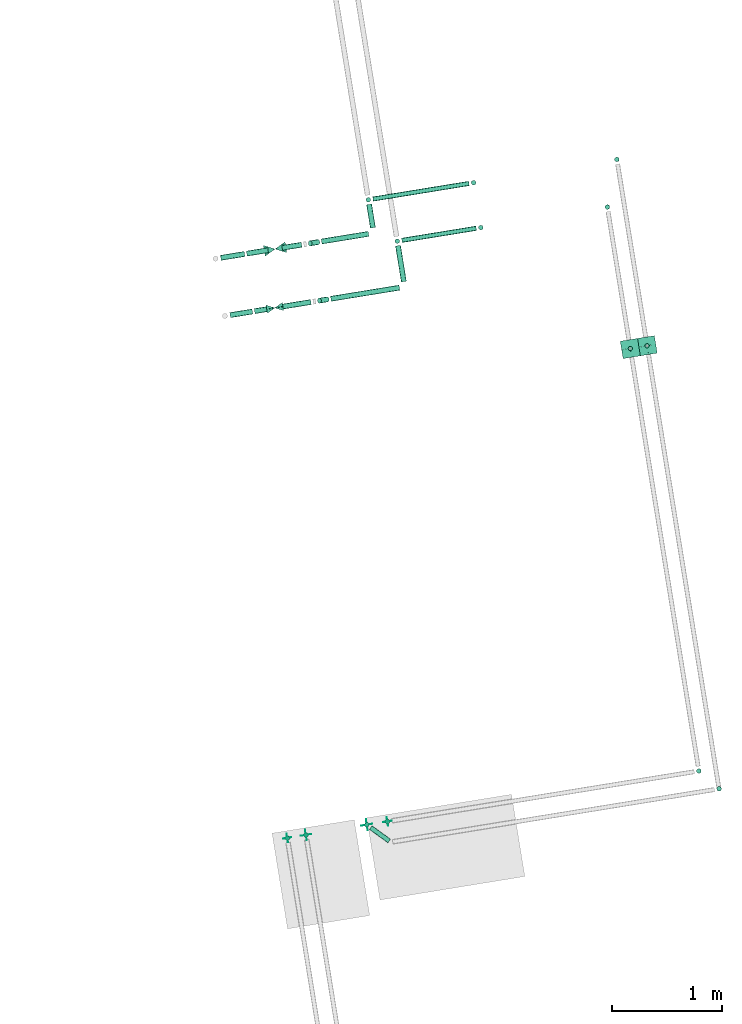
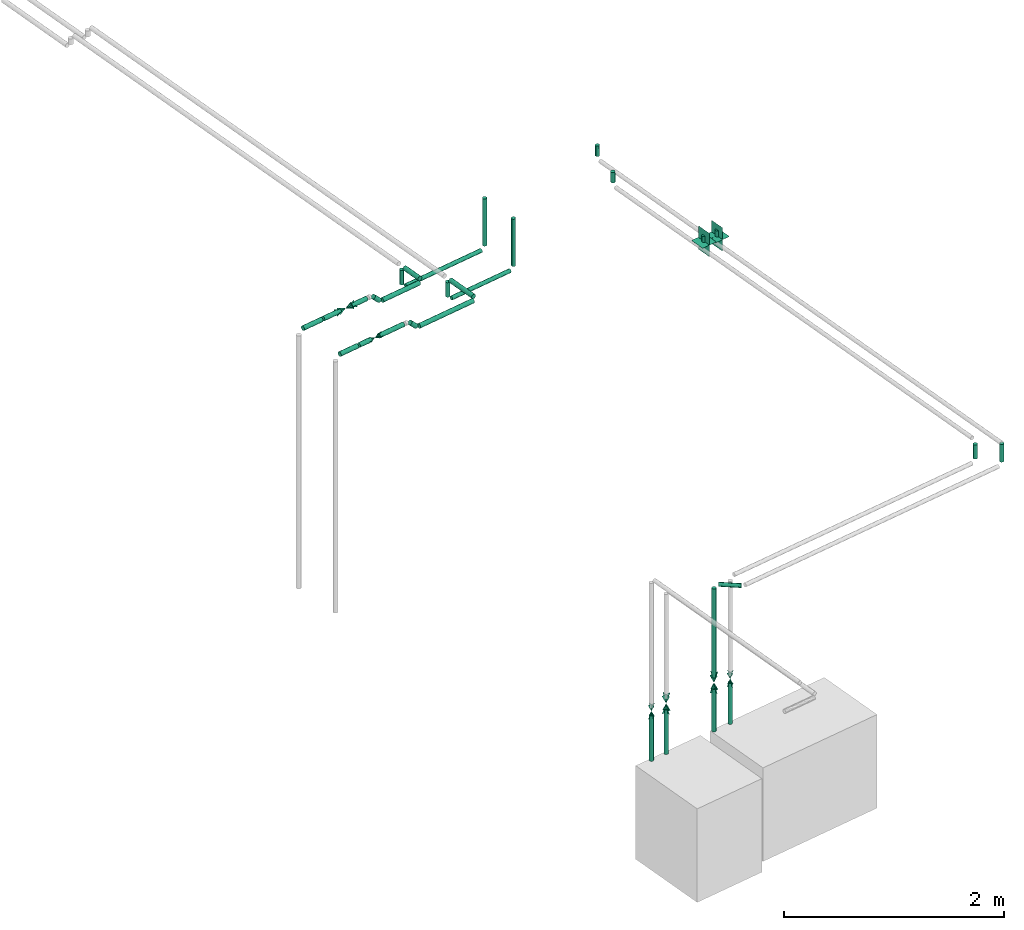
# One storey, part 3 of 10: 28 flow segments, 8 flow controllers.
"""IFC2X3 building model written with IfcOpenShell, lengths in millimetres."""

from ifc_helpers import new_model, entity, si_unit, converted_unit, derived_unit, direction, frame, frame_2d, origin, origin_with_axes, origin_2d_with_axis, place, context, subcontext, project, spatial, polyline, circle, outline, extrude, source, transform, mapped, material, material_list, type_object, element, save


model = new_model("IFC2X3")

# Units and contexts
plan_context = context("Plan", 3, precision=1e-05, world=origin_with_axes())
model_context = context("Model", 3, precision=0.01, world=origin(), true_north=direction((6.12323399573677e-17, 1.0)))
body_context = subcontext(model_context, "Body", "Model", "MODEL_VIEW")
ifc_project = project(units=[converted_unit("PLANEANGLEUNIT", "DEGREE", entity("IfcPositiveLengthMeasure", 0.0174532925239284), si_unit("PLANEANGLEUNIT", "RADIAN"), dimensions=[0, 0, 0, 0, 0, 0, 0]), si_unit("AREAUNIT", "SQUARE_METRE"), si_unit("LENGTHUNIT", "METRE", prefix="MILLI"), si_unit("MASSUNIT", "GRAM", prefix="KILO"), si_unit("POWERUNIT", "WATT"), si_unit("PRESSUREUNIT", "PASCAL", prefix="KILO"), si_unit("FORCEUNIT", "NEWTON", prefix="KILO"), si_unit("ELECTRICVOLTAGEUNIT", "VOLT"), si_unit("ELECTRICCURRENTUNIT", "AMPERE"), si_unit("THERMODYNAMICTEMPERATUREUNIT", "DEGREE_CELSIUS"), si_unit("TIMEUNIT", "SECOND"), si_unit("VOLUMEUNIT", "CUBIC_METRE"), derived_unit("LINEARVELOCITYUNIT", [(si_unit("LENGTHUNIT", "METRE"), 1), (si_unit("TIMEUNIT", "SECOND"), -1)]), derived_unit("VOLUMETRICFLOWRATEUNIT", [(si_unit("VOLUMEUNIT", "CUBIC_METRE"), 1), (si_unit("TIMEUNIT", "SECOND"), -1)]), derived_unit("THERMALTRANSMITTANCEUNIT", [(si_unit("POWERUNIT", "WATT"), 1), (si_unit("THERMODYNAMICTEMPERATUREUNIT", "KELVIN"), -1), (si_unit("AREAUNIT", "SQUARE_METRE"), -1)]), derived_unit("SOUNDPRESSUREUNIT", [(si_unit("PRESSUREUNIT", "PASCAL"), 1)])], contexts=[model_context, plan_context])

# Site, building, storey
site_placement = place(None, frame((-0.00071070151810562, 0.00438415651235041, 0.0), z_axis=(0.0, 0.0, 1.0), x_axis=(-0.160236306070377, 0.987078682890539, 0.0)))
site = spatial("IfcSite", under=ifc_project, at=site_placement, Name="Default", CompositionType="ELEMENT")
building_placement = place(site_placement, origin_with_axes())
building = spatial("IfcBuilding", under=site, at=building_placement, CompositionType="ELEMENT")
storey_placement = place(building_placement, frame((0.0, 0.0, 58999.9999999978), z_axis=(0.0, 0.0, 1.0), x_axis=(1.0, 0.0, 0.0)))
storey = spatial("IfcBuildingStorey", under=building, at=storey_placement, Name="Nivå F", CompositionType="ELEMENT", Elevation=58999.9999999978)

# Flow controllers
ifc_material_1 = material(Name="2d_hide")
valve_type_1 = type_object("IfcValveType", Name="REGULERINGSVENTIL - MANUELL--SV01T:REGULERINGSVENTIL - MANUELL-40-SV001T", PredefinedType="NOTDEFINED", material=ifc_material_1)
shared_shape_1 = source(origin(), body_context, "Body", "SweptSolid", [
    extrude(outline(polyline([(-52.1749194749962, -29.8142396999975), (59.6284793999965, -29.8142396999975), (-7.4535599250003, 59.628479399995), (-52.1749194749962, -29.8142396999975)])), frame((66.6666666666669, 0.0, -0.1), z_axis=(0.0, 0.0, 1.0), x_axis=(-0.894427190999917, -0.447213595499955, 0.0)), (0.0, 0.0, 1.0), 0.2),
    extrude(outline(polyline([(-50.0, -33.3333333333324), (50.0, -33.3333333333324), (0.0, 66.6666666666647), (-50.0, -33.3333333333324)])), frame((-66.6666666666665, 0.0, -0.1), z_axis=(0.0, 0.0, 1.0), x_axis=(0.0, -1.0, 0.0)), (0.0, 0.0, 1.0), 0.2),
    extrude(outline(polyline([(-52.1749194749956, -29.8142396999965), (59.6284793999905, -29.8142396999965), (-7.45355992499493, 59.628479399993), (-52.1749194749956, -29.8142396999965)])), frame((66.66666666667, -0.1, 0.0), z_axis=(0.0, 1.0, 0.0), x_axis=(-0.894427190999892, 0.0, 0.447213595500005)), (0.0, 0.0, 1.0), 0.2),
    extrude(outline(polyline([(-50.0, -33.3333333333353), (50.0, -33.3333333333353), (0.0, 66.6666666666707), (-50.0, -33.3333333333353)])), frame((-66.6666666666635, -0.1, 0.0), z_axis=(0.0, 1.0, 0.0), x_axis=(0.0, 0.0, 1.0)), (0.0, 0.0, 1.0), 0.2),
])
flow_controller_1_placement = place(storey_placement, frame((771916.919644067, -501871.96680969, 2880.0), z_axis=(0.0, 0.0, 1.0), x_axis=(0.0, 1.0, 0.0)))
element("IfcFlowController", 1, at=flow_controller_1_placement, inside=storey, type_object=valve_type_1, material=ifc_material_1, Name="REGULERINGSVENTIL - MANUELL--SV01T:REGULERINGSVENTIL - MANUELL-40-SV001T", ObjectType="REGULERINGSVENTIL - MANUELL--SV01T:REGULERINGSVENTIL - MANUELL-40-SV001T", context=body_context, shape_type="MappedRepresentation", body=[
    mapped(shared_shape_1, transform((0.0, 0.0, 0.0), scale=1.0)),
])
valve_type_2 = type_object("IfcValveType", Name="REGULERINGSVENTIL - MANUELL--SV01T:REGULERINGSVENTIL - MANUELL-32-SV001T", PredefinedType="NOTDEFINED", material=ifc_material_1)
for number, where, z_axis, x_axis in (
    (2, (766591.968589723, -501293.064801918, 1635.22115136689), (0.0, -1.0, 0.0), (0.0, 0.0, 1.0)),
    (3, (766594.059199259, -501856.794089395, 1615.50142748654), (-1.0, 0.0, 0.0), (0.0, 0.0, 1.0)),
):
    element("IfcFlowController", number, at=place(storey_placement, frame(where, z_axis=z_axis, x_axis=x_axis)), inside=storey, type_object=valve_type_2, material=ifc_material_1, Name="REGULERINGSVENTIL - MANUELL--SV01T:REGULERINGSVENTIL - MANUELL-32-SV001T", ObjectType="REGULERINGSVENTIL - MANUELL--SV01T:REGULERINGSVENTIL - MANUELL-32-SV001T", context=body_context, shape_type="MappedRepresentation", body=[
        mapped(shared_shape_1, transform((0.0, 0.0, 0.0), scale=1.0)),
    ])
ifc_material_2 = material(Name="<Unnamed>")
valve_type_3 = type_object("IfcValveType", Name="STENGEVENTIL - MANUELL-  1-SM01T:STENGEVENTIL - MANUELL-40-SM001T", PredefinedType="NOTDEFINED", material=ifc_material_2)
shared_shape_2 = source(origin(), body_context, "Body", "SweptSolid", [
    extrude(outline(polyline([(-39.1311896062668, -22.3606797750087), (44.7213595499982, -22.3606797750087), (-5.59016994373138, 44.7213595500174), (-39.1311896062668, -22.3606797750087)])), frame((50.0, -1.07349053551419, 0.0), z_axis=(0.0, 1.0, 0.0), x_axis=(-0.894427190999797, 0.0, 0.447213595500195)), (0.0, 0.0, 1.0), 2.13989335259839),
    extrude(outline(polyline([(-37.5000000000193, -25.0), (37.5000000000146, -25.0), (0.0, 50.0), (-37.5000000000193, -25.0)])), frame((-50.0, -1.07349053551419, 0.0), z_axis=(0.0, 1.0, 0.0), x_axis=(0.0, 0.0, 1.0)), (0.0, 0.0, 1.0), 2.13989335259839),
    extrude(outline(polyline([(-37.5000000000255, -25.0), (37.5000000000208, -25.0), (0.0, 50.0), (-37.5000000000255, -25.0)])), frame((50.0, 0.0, -1.0664028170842), z_axis=(0.0, 0.0, 1.0), x_axis=(0.0, 1.0, 0.0)), (0.0, 0.0, 1.0), 2.13989335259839),
    extrude(outline(polyline([(-39.1311896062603, -22.360679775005), (44.7213595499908, -22.360679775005), (-5.59016994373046, 44.72135955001), (-39.1311896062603, -22.360679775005)])), frame((-50.0, 0.0, -1.0664028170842), z_axis=(0.0, 0.0, 1.0), x_axis=(0.894427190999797, 0.447213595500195, 0.0)), (0.0, 0.0, 1.0), 2.13989335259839),
])
flow_controller_2_placement = place(storey_placement, frame((771386.919644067, -501783.466808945, 2880.0), z_axis=(0.0, 0.0, -1.0), x_axis=(0.0, -1.0, 0.0)))
element("IfcFlowController", 4, at=flow_controller_2_placement, inside=storey, type_object=valve_type_3, material=ifc_material_2, Name="STENGEVENTIL - MANUELL-  1-SM01T:STENGEVENTIL - MANUELL-40-SM001T", ObjectType="STENGEVENTIL - MANUELL-  1-SM01T:STENGEVENTIL - MANUELL-40-SM001T", context=body_context, shape_type="MappedRepresentation", body=[
    mapped(shared_shape_2, transform((0.0, 0.0, 0.0), scale=1.0)),
])
valve_type_4 = type_object("IfcValveType", Name="STENGEVENTIL - MANUELL-  1-SM01T:STENGEVENTIL - MANUELL-32-SM001T", PredefinedType="NOTDEFINED", material=ifc_material_2)
for number, where, z_axis, x_axis in (
    (5, (766591.968589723, -501120.3746416, 1625.00142748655), (0.0, 1.0, 0.0), (0.0, 0.0, 1.0)),
    (6, (766594.059199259, -502047.02828872, 1573.2211513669), (1.0, 0.0, 0.0), (0.0, 0.0, 1.0)),
):
    element("IfcFlowController", number, at=place(storey_placement, frame(where, z_axis=z_axis, x_axis=x_axis)), inside=storey, type_object=valve_type_4, material=ifc_material_2, Name="STENGEVENTIL - MANUELL-  1-SM01T:STENGEVENTIL - MANUELL-32-SM001T", ObjectType="STENGEVENTIL - MANUELL-  1-SM01T:STENGEVENTIL - MANUELL-32-SM001T", context=body_context, shape_type="MappedRepresentation", body=[
        mapped(shared_shape_2, transform((0.0, 0.0, 0.0), scale=1.0)),
    ])
ifc_material_3 = material(Name="Metal - Caleffi - Brass")
ifc_material_list = material_list([ifc_material_1, ifc_material_3])
valve_type_5 = type_object("IfcValveType", Name="LUFTEPOTTE--:LUFTEPOTTE", PredefinedType="NOTDEFINED", material=ifc_material_list)
shared_shape_3 = source(origin(), body_context, "Body", "SweptSolid", [
    extrude(outline(polyline([(-80.4999999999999, -88.6500000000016), (80.4999999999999, -88.6500000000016), (80.4999999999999, 71.3499999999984), (0.499999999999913, 71.3499999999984), (0.499999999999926, -54.0499999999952), (-0.499999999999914, -54.0499999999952), (-0.499999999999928, 71.3499999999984), (-80.4999999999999, 71.3499999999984), (-80.4999999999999, -88.6500000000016)])), frame((0.0, 8.55000000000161, -0.1)), (0.0, 0.0, 1.0), 0.2),
    extrude(outline(polyline([(-80.5, -108.874999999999), (-0.500000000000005, -108.874999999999), (-0.500000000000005, 66.6249999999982), (0.500000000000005, 66.6249999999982), (0.500000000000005, -108.874999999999), (80.5, -108.874999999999), (80.5, 151.125000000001), (-80.5, 151.125), (-80.5, -108.874999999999)])), frame((0.0, -0.1, 21.1250000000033), z_axis=(0.0, 1.0, 0.0), x_axis=(1.0, 0.0, 0.0)), (0.0, 0.0, 1.0), 0.2),
    extrude(circle(Radius=19.84375, at=frame_2d((-2.11497486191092e-15, -1.05857627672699e-13), x_axis=(1.0, 0.0))), frame((0.0, 0.0, 0.0), z_axis=(0.0, 0.0, 1.0), x_axis=(0.0, 1.0, 0.0)), (0.0, 0.0, 1.0), 66.6750000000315),
])
for number, where, z_axis, x_axis in (
    (7, (770500.776748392, -504927.02828872, 3041.00964185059), (0.0, 0.0, 1.0), (1.0, 0.0, 0.0)),
    (8, (770500.776748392, -505082.544854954, 3032.83070367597), (0.0, 0.0, 1.0), (1.0, 0.0, 0.0)),
):
    element("IfcFlowController", number, at=place(storey_placement, frame(where, z_axis=z_axis, x_axis=x_axis)), inside=storey, type_object=valve_type_5, material=ifc_material_list, Name="LUFTEPOTTE--:LUFTEPOTTE", ObjectType="LUFTEPOTTE--:LUFTEPOTTE", context=body_context, shape_type="MappedRepresentation", body=[
        mapped(shared_shape_3, transform((0.0, 0.0, 0.0), scale=1.0)),
    ])

# Flow segments
pipe_segment_type = type_object("IfcPipeSegmentType", Name="Pipe Types:Stålrør syrefast AISI 316", PredefinedType="NOTDEFINED")
flow_segment_1_placement = place(storey_placement, origin_with_axes())
element("IfcFlowSegment", 9, at=flow_segment_1_placement, inside=storey, type_object=pipe_segment_type, Name="Pipe Types:Stålrør syrefast AISI 316", ObjectType="Pipe Types:Stålrør syrefast AISI 316", context=body_context, shape_type="SweptSolid", body=[
    extrude(circle(Radius=24.1499996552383, at=origin_2d_with_axis()), frame((771916.919644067, -501806.96680969, 2880.0), z_axis=(0.0, 1.0, 0.0), x_axis=(-1.0, 0.0, 0.0)), (0.0, 0.0, 1.0), 197.046877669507),
])
flow_segment_2_placement = place(storey_placement, origin_with_axes())
element("IfcFlowSegment", 10, at=flow_segment_2_placement, inside=storey, type_object=pipe_segment_type, Name="Pipe Types:Stålrør syrefast AISI 316", ObjectType="Pipe Types:Stålrør syrefast AISI 316", context=body_context, shape_type="SweptSolid", body=[
    extrude(circle(Radius=24.1499996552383, at=origin_2d_with_axis()), frame((771386.919644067, -501736.466808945, 2880.0), z_axis=(0.0, 1.0, 0.0), x_axis=(-1.0, 0.0, 0.0)), (0.0, 0.0, 1.0), 140.000000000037),
])
flow_segment_3_placement = place(storey_placement, origin_with_axes())
element("IfcFlowSegment", 11, at=flow_segment_3_placement, inside=storey, type_object=pipe_segment_type, Name="Pipe Types:Stålrør syrefast AISI 316", ObjectType="Pipe Types:Stålrør syrefast AISI 316", context=body_context, shape_type="SweptSolid", body=[
    extrude(circle(Radius=24.1499996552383, at=origin_2d_with_axis()), frame((771386.919644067, -501576.466808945, 2880.0), z_axis=(0.0, 1.0, 0.0), x_axis=(-1.0, 0.0, 0.0)), (0.0, 0.0, 1.0), 206.546876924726),
])
flow_segment_4_placement = place(storey_placement, origin_with_axes())
element("IfcFlowSegment", 12, at=flow_segment_4_placement, inside=storey, type_object=pipe_segment_type, Name="Pipe Types:Stålrør syrefast AISI 316", ObjectType="Pipe Types:Stålrør syrefast AISI 316", context=body_context, shape_type="SweptSolid", body=[
    extrude(circle(Radius=24.1499996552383, at=origin_2d_with_axis()), frame((771916.919644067, -501589.91993202, 2880.0), z_axis=(0.0, 1.0, 0.0), x_axis=(-1.0, 0.0, 0.0)), (0.0, 0.0, 1.0), 220.000000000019),
])
flow_segment_5_placement = place(storey_placement, origin_with_axes())
element("IfcFlowSegment", 13, at=flow_segment_5_placement, inside=storey, type_object=pipe_segment_type, Name="Pipe Types:Stålrør syrefast AISI 316", ObjectType="Pipe Types:Stålrør syrefast AISI 316", context=body_context, shape_type="SweptSolid", body=[
    extrude(circle(Radius=24.1499996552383, at=origin_2d_with_axis()), frame((771916.919644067, -502116.96680969, 2880.0), z_axis=(0.0, 1.0, 0.0), x_axis=(-1.0, 0.0, 0.0)), (0.0, 0.0, 1.0), 180.000000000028),
])
flow_segment_6_placement = place(storey_placement, origin_with_axes())
element("IfcFlowSegment", 14, at=flow_segment_6_placement, inside=storey, type_object=pipe_segment_type, Name="Pipe Types:Stålrør syrefast AISI 316", ObjectType="Pipe Types:Stålrør syrefast AISI 316", context=body_context, shape_type="SweptSolid", body=[
    extrude(circle(Radius=24.1499996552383, at=origin_2d_with_axis()), frame((771386.919644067, -502116.96680969, 2880.0), z_axis=(0.0, 1.0, 0.0), x_axis=(-1.0, 0.0, 0.0)), (0.0, 0.0, 1.0), 286.500000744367),
])
flow_segment_7_placement = place(storey_placement, origin_with_axes())
element("IfcFlowSegment", 15, at=flow_segment_7_placement, inside=storey, type_object=pipe_segment_type, Name="Pipe Types:Stålrør syrefast AISI 316", ObjectType="Pipe Types:Stålrør syrefast AISI 316", context=body_context, shape_type="SweptSolid", body=[
    extrude(circle(Radius=24.1499996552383, at=origin_2d_with_axis()), frame((771916.919644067, -502736.054093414, 2780.0), z_axis=(0.0, 1.0, 0.0), x_axis=(1.0, 0.0, 0.0)), (0.0, 0.0, 1.0), 434.039347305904),
])
flow_segment_8_placement = place(storey_placement, origin_with_axes())
element("IfcFlowSegment", 16, at=flow_segment_8_placement, inside=storey, type_object=pipe_segment_type, Name="Pipe Types:Stålrør syrefast AISI 316", ObjectType="Pipe Types:Stålrør syrefast AISI 316", context=body_context, shape_type="SweptSolid", body=[
    extrude(circle(Radius=24.1499996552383, at=origin_2d_with_axis()), frame((771386.919644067, -502936.054093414, 2780.0), z_axis=(0.0, 1.0, 0.0), x_axis=(1.0, 0.0, 0.0)), (0.0, 0.0, 1.0), 634.039347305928),
])
flow_segment_9_placement = place(storey_placement, origin_with_axes())
element("IfcFlowSegment", 17, at=flow_segment_9_placement, inside=storey, type_object=pipe_segment_type, Name="Pipe Types:Stålrør syrefast AISI 316", ObjectType="Pipe Types:Stålrør syrefast AISI 316", context=body_context, shape_type="SweptSolid", body=[
    extrude(circle(Radius=24.1499996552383, at=origin_2d_with_axis()), frame((771916.919644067, -502267.790777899, 2794.17603179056), z_axis=(0.0, 0.707106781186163, 0.707106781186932), x_axis=(-1.0, 0.0, 0.0)), (0.0, 0.0, 1.0), 101.32548339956),
])
flow_segment_10_placement = place(storey_placement, origin_with_axes())
element("IfcFlowSegment", 18, at=flow_segment_10_placement, inside=storey, type_object=pipe_segment_type, Name="Pipe Types:Stålrør syrefast AISI 316", ObjectType="Pipe Types:Stålrør syrefast AISI 316", context=body_context, shape_type="SweptSolid", body=[
    extrude(circle(Radius=24.1499996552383, at=origin_2d_with_axis()), frame((771386.919644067, -502267.790777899, 2794.17603179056), z_axis=(0.0, 0.707106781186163, 0.707106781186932), x_axis=(-1.0, 0.0, 0.0)), (0.0, 0.0, 1.0), 101.32548339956),
])
flow_segment_11_placement = place(storey_placement, origin_with_axes())
element("IfcFlowSegment", 19, at=flow_segment_11_placement, inside=storey, type_object=pipe_segment_type, Name="Pipe Types:Stålrør syrefast AISI 316", ObjectType="Pipe Types:Stålrør syrefast AISI 316", context=body_context, shape_type="SweptSolid", body=[
    extrude(circle(Radius=21.2000007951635, at=origin_2d_with_axis()), frame((766591.968589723, -501293.064801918, 1080.0)), (0.0, 0.0, 1.0), 493.2211513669),
])
flow_segment_12_placement = place(storey_placement, origin_with_axes())
element("IfcFlowSegment", 20, at=flow_segment_12_placement, inside=storey, type_object=pipe_segment_type, Name="Pipe Types:Stålrør syrefast AISI 316", ObjectType="Pipe Types:Stålrør syrefast AISI 316", context=body_context, shape_type="SweptSolid", body=[
    extrude(circle(Radius=21.2000007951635, at=origin_2d_with_axis()), frame((766591.968589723, -501120.3746416, 1080.0)), (0.0, 0.0, 1.0), 504.50142748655),
])
flow_segment_13_placement = place(storey_placement, origin_with_axes())
element("IfcFlowSegment", 21, at=flow_segment_13_placement, inside=storey, type_object=pipe_segment_type, Name="Pipe Types:Stålrør syrefast AISI 316", ObjectType="Pipe Types:Stålrør syrefast AISI 316", context=body_context, shape_type="SweptSolid", body=[
    extrude(circle(Radius=21.2000007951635, at=origin_2d_with_axis()), frame((771809.667229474, -503714.62828872, 2540.0), z_axis=(0.0, 1.0, 0.0), x_axis=(1.0, 0.0, 0.0)), (0.0, 0.0, 1.0), 687.774195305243),
])
flow_segment_14_placement = place(storey_placement, origin_with_axes())
element("IfcFlowSegment", 22, at=flow_segment_14_placement, inside=storey, type_object=pipe_segment_type, Name="Pipe Types:Stålrør syrefast AISI 316", ObjectType="Pipe Types:Stålrør syrefast AISI 316", context=body_context, shape_type="SweptSolid", body=[
    extrude(circle(Radius=21.2000007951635, at=frame_2d((0.0, -6.93034962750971e-11), x_axis=(1.0, 0.0))), frame((771809.667229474, -503757.02828872, 2582.40000000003), z_axis=(0.0, 0.0, 1.0), x_axis=(-1.0, 0.0, 0.0)), (0.0, 0.0, 1.0), 525.19999999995),
])
flow_segment_15_placement = place(storey_placement, origin_with_axes())
element("IfcFlowSegment", 23, at=flow_segment_15_placement, inside=storey, type_object=pipe_segment_type, Name="Pipe Types:Stålrør syrefast AISI 316", ObjectType="Pipe Types:Stålrør syrefast AISI 316", context=body_context, shape_type="SweptSolid", body=[
    extrude(circle(Radius=21.2000007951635, at=origin_2d_with_axis()), frame((772224.097050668, -503714.62828872, 2540.0), z_axis=(0.0, 1.0, 0.0), x_axis=(1.0, 0.0, 0.0)), (0.0, 0.0, 1.0), 887.774195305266),
])
flow_segment_16_placement = place(storey_placement, origin_with_axes())
element("IfcFlowSegment", 24, at=flow_segment_16_placement, inside=storey, type_object=pipe_segment_type, Name="Pipe Types:Stålrør syrefast AISI 316", ObjectType="Pipe Types:Stålrør syrefast AISI 316", context=body_context, shape_type="SweptSolid", body=[
    extrude(circle(Radius=21.2000007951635, at=frame_2d((0.0, -6.93034962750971e-11), x_axis=(1.0, 0.0))), frame((772224.097050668, -503757.02828872, 2582.40000000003), z_axis=(0.0, 0.0, 1.0), x_axis=(-1.0, 0.0, 0.0)), (0.0, 0.0, 1.0), 525.19999999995),
])
flow_segment_17_placement = place(storey_placement, origin_with_axes())
element("IfcFlowSegment", 25, at=flow_segment_17_placement, inside=storey, type_object=pipe_segment_type, Name="Pipe Types:Stålrør syrefast AISI 316", ObjectType="Pipe Types:Stålrør syrefast AISI 316", context=body_context, shape_type="SweptSolid", body=[
    extrude(circle(Radius=21.2000007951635, at=origin_2d_with_axis()), frame((771809.667229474, -502984.454093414, 2582.40000000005)), (0.0, 0.0, 1.0), 161.299999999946),
])
flow_segment_18_placement = place(storey_placement, origin_with_axes())
element("IfcFlowSegment", 26, at=flow_segment_18_placement, inside=storey, type_object=pipe_segment_type, Name="Pipe Types:Stålrør syrefast AISI 316", ObjectType="Pipe Types:Stålrør syrefast AISI 316", context=body_context, shape_type="SweptSolid", body=[
    extrude(circle(Radius=24.1499996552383, at=origin_2d_with_axis()), frame((771435.319644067, -502984.454093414, 2780.0), z_axis=(1.0, 0.0, 0.0), x_axis=(0.0, -1.0, 0.0)), (0.0, 0.0, 1.0), 331.947585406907),
])
flow_segment_19_placement = place(storey_placement, origin_with_axes())
element("IfcFlowSegment", 27, at=flow_segment_19_placement, inside=storey, type_object=pipe_segment_type, Name="Pipe Types:Stålrør syrefast AISI 316", ObjectType="Pipe Types:Stålrør syrefast AISI 316", context=body_context, shape_type="SweptSolid", body=[
    extrude(circle(Radius=21.2000007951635, at=frame_2d((0.0, -6.93034962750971e-11), x_axis=(1.0, 0.0))), frame((772224.097050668, -502784.454093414, 2582.40000000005)), (0.0, 0.0, 1.0), 161.299999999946),
])
flow_segment_20_placement = place(storey_placement, origin_with_axes())
element("IfcFlowSegment", 28, at=flow_segment_20_placement, inside=storey, type_object=pipe_segment_type, Name="Pipe Types:Stålrør syrefast AISI 316", ObjectType="Pipe Types:Stålrør syrefast AISI 316", context=body_context, shape_type="SweptSolid", body=[
    extrude(circle(Radius=24.1499996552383, at=frame_2d((6.93034962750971e-11, 0.0), x_axis=(1.0, 0.0))), frame((771965.319644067, -502784.454093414, 2780.0), z_axis=(1.0, 0.0, 0.0), x_axis=(0.0, -1.0, 0.0)), (0.0, 0.0, 1.0), 216.377406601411),
])
flow_segment_21_placement = place(storey_placement, origin_with_axes())
element("IfcFlowSegment", 29, at=flow_segment_21_placement, inside=storey, type_object=pipe_segment_type, Name="Pipe Types:Stålrør syrefast AISI 316", ObjectType="Pipe Types:Stålrør syrefast AISI 316", context=body_context, shape_type="SweptSolid", body=[
    extrude(circle(Radius=21.2000007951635, at=origin_2d_with_axis()), frame((772224.097050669, -505082.392943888, 2992.39972786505), z_axis=(0.0, 0.00358280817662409, 0.999993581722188), x_axis=(1.0, 0.0, 0.0)), (0.0, 0.0, 1.0), 115.352923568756),
])
flow_segment_22_placement = place(storey_placement, origin_with_axes())
element("IfcFlowSegment", 30, at=flow_segment_22_placement, inside=storey, type_object=pipe_segment_type, Name="Pipe Types:Stålrør syrefast AISI 316", ObjectType="Pipe Types:Stålrør syrefast AISI 316", context=body_context, shape_type="SweptSolid", body=[
    extrude(circle(Radius=21.2000007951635, at=origin_2d_with_axis()), frame((771809.667229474, -504926.858690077, 2992.39966080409), z_axis=(0.0, 0.00399996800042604, 0.999992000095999), x_axis=(1.0, 0.0, 0.0)), (0.0, 0.0, 1.0), 115.37086079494),
])
flow_segment_23_placement = place(storey_placement, origin_with_axes())
element("IfcFlowSegment", 31, at=flow_segment_23_placement, inside=storey, type_object=pipe_segment_type, Name="Pipe Types:Stålrør syrefast AISI 316", ObjectType="Pipe Types:Stålrør syrefast AISI 316", context=body_context, shape_type="SweptSolid", body=[
    extrude(circle(Radius=21.2000007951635, at=frame_2d((0.0, 6.93034962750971e-11), x_axis=(1.0, 0.0))), frame((766594.059199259, -504927.02828872, 2752.40000000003), z_axis=(0.0, 0.0, 1.0), x_axis=(-1.0, 0.0, 0.0)), (0.0, 0.0, 1.0), 155.199999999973),
])
flow_segment_24_placement = place(storey_placement, origin_with_axes())
element("IfcFlowSegment", 32, at=flow_segment_24_placement, inside=storey, type_object=pipe_segment_type, Name="Pipe Types:Stålrør syrefast AISI 316", ObjectType="Pipe Types:Stålrør syrefast AISI 316", context=body_context, shape_type="SweptSolid", body=[
    extrude(circle(Radius=21.2000007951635, at=origin_2d_with_axis()), frame((766403.824999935, -505082.544854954, 2752.40000000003), z_axis=(0.0, 0.0, 1.0), x_axis=(-1.0, 0.0, 0.0)), (0.0, 0.0, 1.0), 197.599999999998),
])
flow_segment_25_placement = place(storey_placement, origin_with_axes())
element("IfcFlowSegment", 33, at=flow_segment_25_placement, inside=storey, type_object=pipe_segment_type, Name="Pipe Types:Stålrør syrefast AISI 316", ObjectType="Pipe Types:Stålrør syrefast AISI 316", context=body_context, shape_type="SweptSolid", body=[
    extrude(circle(Radius=21.2000007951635, at=origin_2d_with_axis()), frame((766416.243672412, -502034.609616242, 2710.0), z_axis=(0.707106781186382, 0.707106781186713, 0.0), x_axis=(0.707106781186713, -0.707106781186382, 0.0)), (0.0, 0.0, 1.0), 209.06912966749),
])
flow_segment_26_placement = place(storey_placement, origin_with_axes())
element("IfcFlowSegment", 34, at=flow_segment_26_placement, inside=storey, type_object=pipe_segment_type, Name="Pipe Types:Stålrør syrefast AISI 316", ObjectType="Pipe Types:Stålrør syrefast AISI 316", context=body_context, shape_type="SweptSolid", body=[
    extrude(circle(Radius=21.2000007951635, at=frame_2d((0.0, -6.93034962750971e-11), x_axis=(1.0, 0.0))), frame((766594.059199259, -501856.794089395, 1080.0)), (0.0, 0.0, 1.0), 473.501427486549),
])
flow_segment_27_placement = place(storey_placement, origin_with_axes())
element("IfcFlowSegment", 35, at=flow_segment_27_placement, inside=storey, type_object=pipe_segment_type, Name="Pipe Types:Stålrør syrefast AISI 316", ObjectType="Pipe Types:Stålrør syrefast AISI 316", context=body_context, shape_type="SweptSolid", body=[
    extrude(circle(Radius=21.2000007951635, at=frame_2d((0.0, -6.93034962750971e-11), x_axis=(1.0, 0.0))), frame((766594.059199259, -502047.02828872, 1080.0)), (0.0, 0.0, 1.0), 452.7211513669),
])
flow_segment_28_placement = place(storey_placement, origin_with_axes())
element("IfcFlowSegment", 36, at=flow_segment_28_placement, inside=storey, type_object=pipe_segment_type, Name="Pipe Types:Stålrør syrefast AISI 316", ObjectType="Pipe Types:Stålrør syrefast AISI 316", context=body_context, shape_type="SweptSolid", body=[
    extrude(circle(Radius=21.2000007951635, at=frame_2d((0.0, -6.93034962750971e-11), x_axis=(1.0, 0.0))), frame((766594.059199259, -501856.794089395, 1677.50142748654)), (0.0, 0.0, 1.0), 990.098572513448),
])

save(model, "model.ifc")
